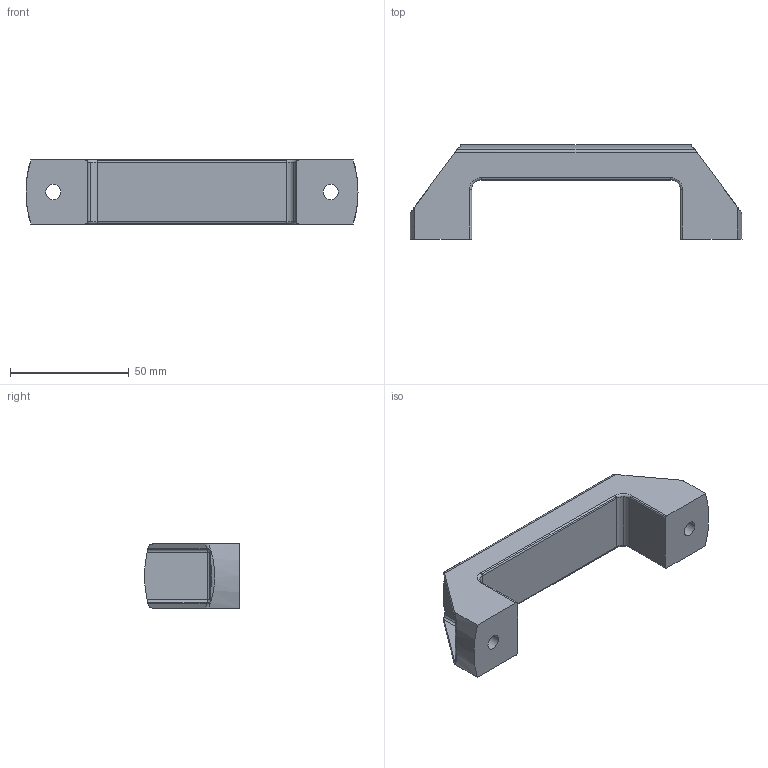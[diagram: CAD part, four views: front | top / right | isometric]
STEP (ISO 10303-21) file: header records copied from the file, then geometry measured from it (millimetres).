
FILE_DESCRIPTION (( 'STEP AP203' ), '1' );
FILE_NAME ('FHD06115.STEP', '2024-02-19T12:40:33', ( '' ), ( '' ), 'SwSTEP 2.0', 'SolidWorks 2022', '' );
FILE_SCHEMA (( 'CONFIG_CONTROL_DESIGN' ));
Length unit declared in the file: millimetre
Products named in the file (1): FHD06115
Bounding box: 140 x 39.88 x 27 mm (x, y, z)
Volume: 58008.3 mm3; surface area: 17225.1 mm2
Topology: 1 solids, 1 shells, 88 faces, 236 edges, 148 vertices
Faces by surface type: cylinder 42, bspline 21, plane 21, torus 4
Entity records: 3278 total; most frequent: CARTESIAN_POINT 1192, ORIENTED_EDGE 464, DIRECTION 376, EDGE_CURVE 232, VERTEX_POINT 148, AXIS2_PLACEMENT_3D 148, EDGE_LOOP 94, ADVANCED_FACE 88
